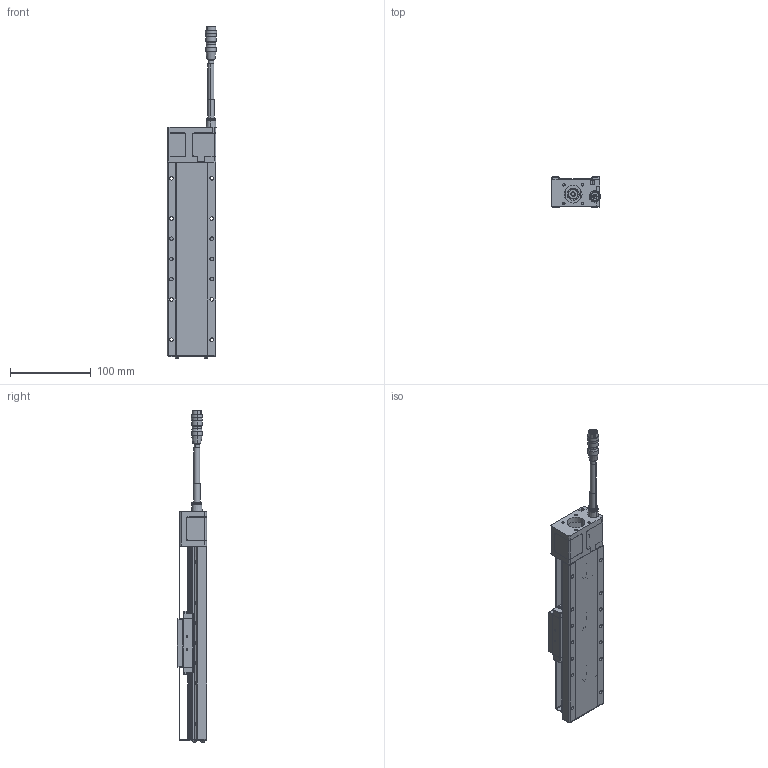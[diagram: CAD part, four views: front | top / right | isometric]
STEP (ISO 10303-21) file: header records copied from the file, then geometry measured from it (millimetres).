
FILE_DESCRIPTION (( 'STEP AP203' ), '1' );
FILE_NAME ('CXC60150-S2?N(µL°¨¹F).S', '2024-01-05T03:50:10', ( '' ), ( '' ), 'SwSTEP 2.0', 'SolidWorks 2019', '' );
FILE_SCHEMA (( 'CONFIG_CONTROL_DESIGN' ));
Length unit declared in the file: millimetre
Products named in the file (9): SG02B005_SCM435(化鎳); HR10A-10J-12P_帶線示意; Group1^CXC60150-S2?N(28框無馬達)_defeature_GMT; CXC60150-S2?N(無馬達); CXC60150-S2OPAN-303_30; Group2^CXC60150-S2?N(28框無馬達)_defeature_GMT; SD03B006_SD03B006-SCM435(化鎳); SC04B006_SCM435(化鎳); CXC60-102-10
Assembly tree (16 placements, depth 2):
  CXC60150-S2?N(無馬達)
    Group1^CXC60150-S2?N(28框無馬達)_defeature_GMT
    Group2^CXC60150-S2?N(28框無馬達)_defeature_GMT
    CXC60150-S2OPAN-303_30
    CXC60-102-10  x2
    SC04B006_SCM435(化鎳)  x4
    SD03B006_SD03B006-SCM435(化鎳)  x4
    SG02B005_SCM435(化鎳)  x2
    HR10A-10J-12P_帶線示意
Bounding box: 60.99 x 37 x 411.15 mm (x, y, z)
Volume: 62586.3 mm3; surface area: 146634.8 mm2
Topology: 42 solids, 44 shells, 3873 faces, 9724 edges, 5876 vertices
Faces by surface type: plane 1303, cylinder 1271, cone 625, torus 314, sphere 198, bspline 162
Entity records: 115426 total; most frequent: CARTESIAN_POINT 27496, DIRECTION 19309, ORIENTED_EDGE 17776, EDGE_CURVE 8888, AXIS2_PLACEMENT_3D 7537, VERTEX_POINT 5456, LINE 4235, VECTOR 4235
